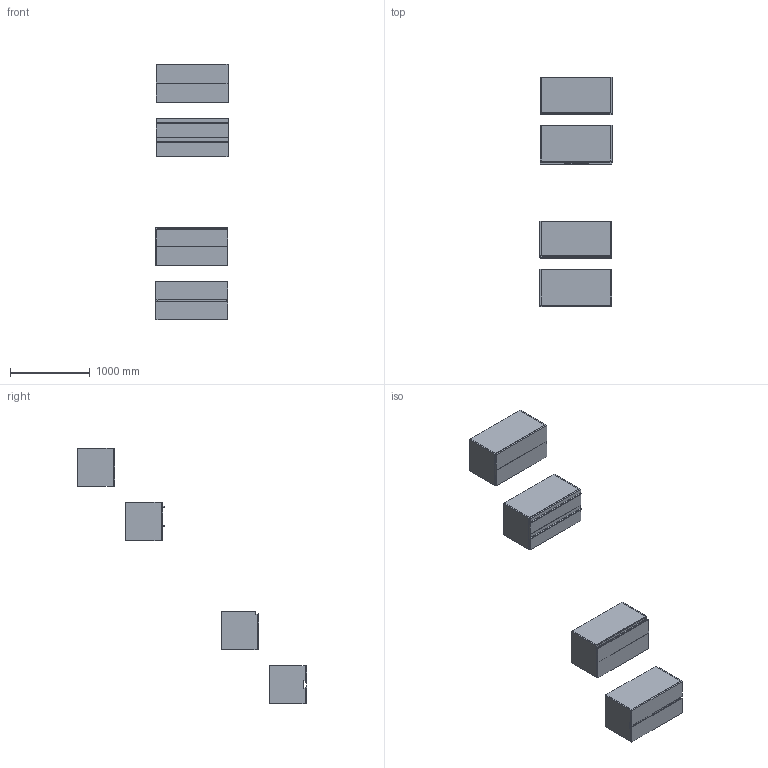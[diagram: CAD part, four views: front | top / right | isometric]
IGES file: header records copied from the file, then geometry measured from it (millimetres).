
Start section: Data from Parasolid IGES Translator 19.0.9, Copyright(c) 2006 Siemens PL M Software. All Rights Reserved.
Global section: file name: noorth-SI-H 48 D 47 W 90_8495.igs; native system: By Siemens PLM Incorporated; preprocessor: XPlus GENERIC/IGES 19.0.9; author: Noname; organization: Noname; date: 20200601.110356; units: metre
Bounding box: 902.66 x 2869.1 x 3200.01 mm (x, y, z)
Volume: 112884077.4 mm3; surface area: 17442160.6 mm2
Topology: 33 solids, 33 shells, 318 faces, 700 edges, 428 vertices
Faces by surface type: plane 230, extrusion 36, bspline 32, cylinder 20
